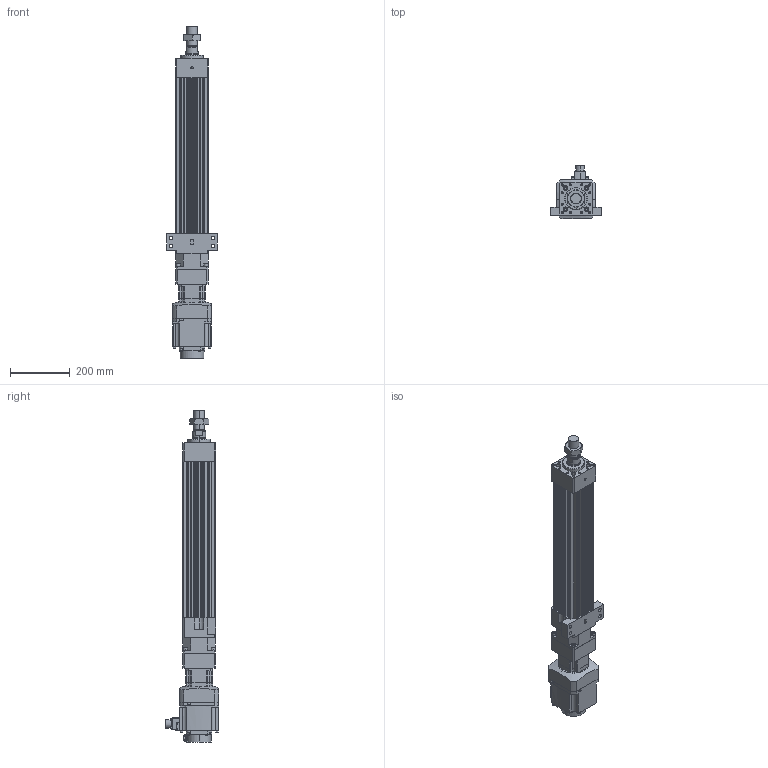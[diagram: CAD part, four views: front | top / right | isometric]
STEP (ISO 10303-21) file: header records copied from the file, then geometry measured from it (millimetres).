
FILE_DESCRIPTION (( 'STEP AP203' ), '1' );
FILE_NAME ('HES110NS(HS)-S350-W010G00-M-FFC.STEP', '2023-01-27T06:29:27', ( 'tms' ), ( '' ), 'SwSTEP 2.0', 'SolidWorks 2013', '' );
FILE_SCHEMA (( 'CONFIG_CONTROL_DESIGN' ));
Length unit declared in the file: millimetre
Products named in the file (8): M36X1.5P; AB090-003[HG-SR102B]; P0401301004; HG-SR102; AB0901; HES110-S350-G090-FFC; HES110NS(HS)-S350-W010G00-M-FFC; HES110 ROD M ST350
Assembly tree (7 placements, depth 3):
  HES110NS(HS)-S350-W010G00-M-FFC
    HES110-S350-G090-FFC
    HES110 ROD M ST350
    M36X1.5P
    AB090-003[HG-SR102B]
      AB0901
      P0401301004
    HG-SR102
Bounding box: 170 x 177.49 x 1108.5 mm (x, y, z)
Volume: 7188946.4 mm3; surface area: 969182.5 mm2
Topology: 4 solids, 15 shells, 1217 faces, 3075 edges, 1984 vertices
Faces by surface type: plane 556, cylinder 547, cone 102, bspline 8, torus 4
Entity records: 38420 total; most frequent: CARTESIAN_POINT 7442, DIRECTION 6626, ORIENTED_EDGE 6054, EDGE_CURVE 3037, AXIS2_PLACEMENT_3D 2439, VERTEX_POINT 1984, LINE 1748, VECTOR 1748
